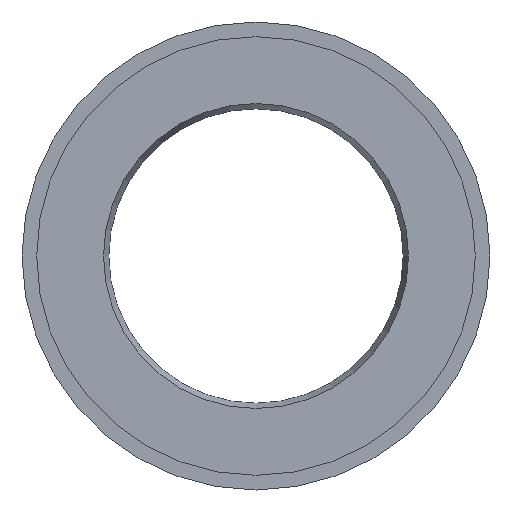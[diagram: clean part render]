
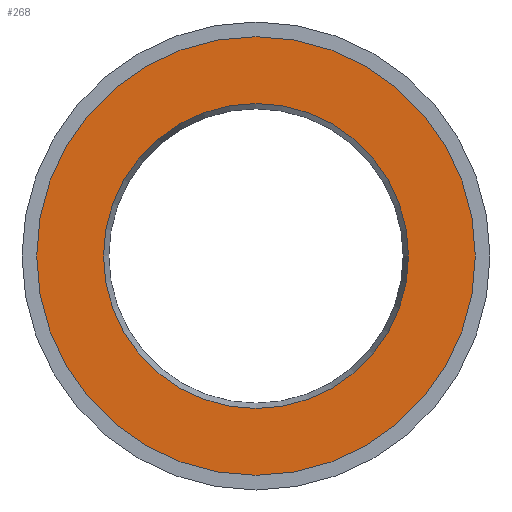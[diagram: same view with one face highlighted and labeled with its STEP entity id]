
A CAD part, left-side view. The second image highlights one B-rep face of the part: STEP entity #268.
In plain terms, the highlighted planar face has unit normal (-1, 0, 0).
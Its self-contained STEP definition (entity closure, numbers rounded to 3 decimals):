
#96=FACE_BOUND('',#122,.T.);
#100=PLANE('',#335);
#110=FACE_OUTER_BOUND('',#121,.T.);
#121=EDGE_LOOP('',(#235,#236));
#122=EDGE_LOOP('',(#237,#238));
#141=CIRCLE('',#319,14.9);
#142=CIRCLE('',#320,14.9);
#147=CIRCLE('',#326,10.364);
#148=CIRCLE('',#327,10.364);
#161=VERTEX_POINT('',#511);
#162=VERTEX_POINT('',#512);
#167=VERTEX_POINT('',#525);
#168=VERTEX_POINT('',#527);
#181=EDGE_CURVE('',#161,#162,#141,.T.);
#182=EDGE_CURVE('',#162,#161,#142,.T.);
#189=EDGE_CURVE('',#167,#168,#147,.T.);
#190=EDGE_CURVE('',#168,#167,#148,.T.);
#235=ORIENTED_EDGE('',*,*,#181,.T.);
#236=ORIENTED_EDGE('',*,*,#182,.T.);
#237=ORIENTED_EDGE('',*,*,#190,.F.);
#238=ORIENTED_EDGE('',*,*,#189,.F.);
#268=ADVANCED_FACE('',(#110,#96),#100,.F.);
#319=AXIS2_PLACEMENT_3D('',#513,#384,#385);
#320=AXIS2_PLACEMENT_3D('',#514,#386,#387);
#326=AXIS2_PLACEMENT_3D('',#528,#400,#401);
#327=AXIS2_PLACEMENT_3D('',#529,#402,#403);
#335=AXIS2_PLACEMENT_3D('',#543,#420,#421);
#384=DIRECTION('center_axis',(-1.,0.,0.));
#385=DIRECTION('ref_axis',(0.,0.,1.));
#386=DIRECTION('center_axis',(-1.,0.,0.));
#387=DIRECTION('ref_axis',(0.,0.,1.));
#400=DIRECTION('center_axis',(-1.,0.,0.));
#401=DIRECTION('ref_axis',(0.,0.,1.));
#402=DIRECTION('center_axis',(-1.,0.,0.));
#403=DIRECTION('ref_axis',(0.,0.,1.));
#420=DIRECTION('center_axis',(1.,0.,0.));
#421=DIRECTION('ref_axis',(0.,0.,-1.));
#511=CARTESIAN_POINT('',(0.,0.,14.9));
#512=CARTESIAN_POINT('',(0.,0.,-14.9));
#513=CARTESIAN_POINT('Origin',(0.,0.,0.));
#514=CARTESIAN_POINT('Origin',(0.,0.,0.));
#525=CARTESIAN_POINT('',(0.,0.,-10.364));
#527=CARTESIAN_POINT('',(0.,0.,10.364));
#528=CARTESIAN_POINT('Origin',(0.,0.,0.));
#529=CARTESIAN_POINT('Origin',(0.,0.,0.));
#543=CARTESIAN_POINT('Origin',(0.,10.364,0.));
